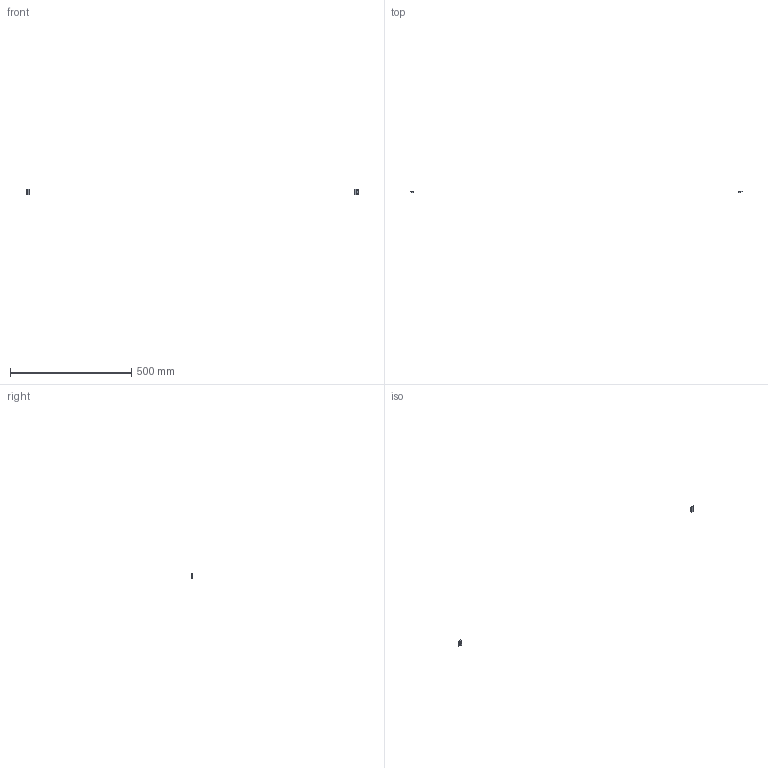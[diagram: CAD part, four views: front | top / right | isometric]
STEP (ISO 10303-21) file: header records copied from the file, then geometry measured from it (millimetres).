
FILE_DESCRIPTION(/* description */ (''),/* implementation_level */ '2;1');
FILE_NAME(/* name */ 'X-F498~1',/* time_stamp */ '2014-02-14T19:47:32+01:00',/* author */ (''),/* organization */ (''),/* preprocessor_version */ 'ST-DEVELOPER v14',/* originating_system */ '',/* authorisation */ '');
FILE_SCHEMA (('AUTOMOTIVE_DESIGN'));
Length unit declared in the file: millimetre
Products named in the file (1): Document
Bounding box: 1370.2 x 6 x 23 mm (x, y, z)
Volume: 2826.6 mm3; surface area: 2150.7 mm2
Topology: 2 solids, 2 shells, 32 faces, 84 edges, 56 vertices
Faces by surface type: plane 16, bspline 16
Entity records: 2047 total; most frequent: CARTESIAN_POINT 910, B_SPLINE_CURVE_WITH_KNOTS 204, ORIENTED_EDGE 168, PCURVE 168, DEFINITIONAL_REPRESENTATION 168, SURFACE_CURVE 84, EDGE_CURVE 84, VERTEX_POINT 56
